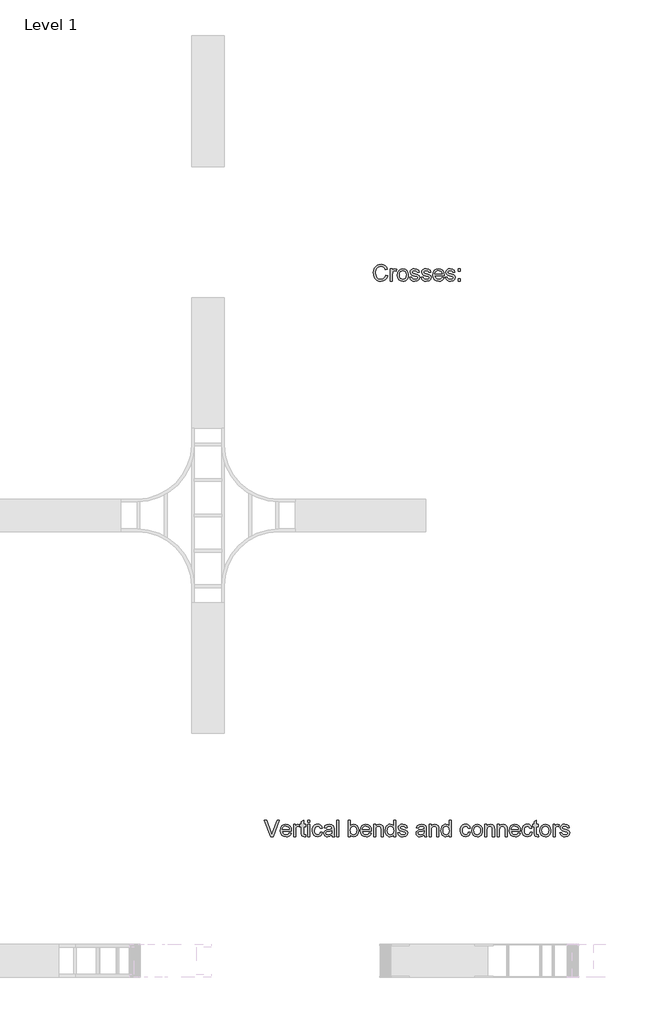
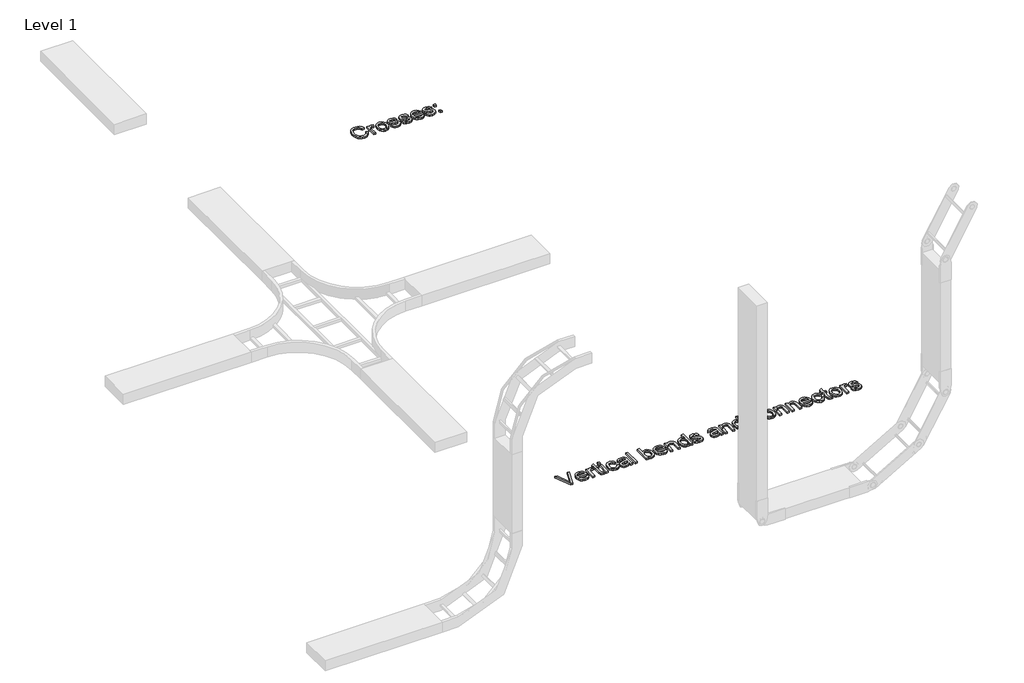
# One storey, part 75 of 106: 2 proxies.
"""IFC4 building model written with IfcOpenShell, lengths in millimetres."""

from ifc_helpers import new_model, si_unit, origin, origin_with_axes, place, context, project, spatial, polyline, outline, extrude, element, save

model = new_model("IFC4")

# Units and contexts
model_context = context("Model", 3, world=origin())
ifc_project = project(units=[si_unit("LENGTHUNIT", "METRE", prefix="MILLI")], contexts=[model_context])

# Site, building, storey
site = spatial("IfcSite", under=ifc_project)
building = spatial("IfcBuilding", under=site)
storey = spatial("IfcBuildingStorey", under=building, Name="Level 1", Elevation=0.0)

# Proxies
placement = place(None, origin())
element("IfcBuildingElementProxy", 1, Name="150mm Arial 2", ObjectType="150mm Arial 2", at=placement, inside=storey, context=model_context, shape_type="SweptSolid", body=[
    extrude(outline(polyline([(107626.8011102, 62501.4112533), (107645.6366684, 62496.5552109), (107636.9454562, 62474.6064514), (107623.3062312, 62458.5713949), (107605.3903781, 62448.7627412), (107583.8692814, 62445.49319), (107562.0216894, 62447.9671964), (107544.6714548, 62455.3892157), (107531.3725206, 62467.5017304), (107521.6788301, 62484.0472231), (107515.7605285, 62503.4989836), (107513.7877613, 62524.3303016), (107516.0180459, 62546.3020537), (107522.7088997, 62565.2755676), (107533.5108347, 62580.6484365), (107548.0743632, 62591.8182536), (107565.3464229, 62598.619472), (107584.2739516, 62600.8865448), (107604.9259271, 62597.9526859), (107622.0002502, 62589.1511091), (107634.963492, 62575.0244405), (107643.2822236, 62556.115306), (107624.4466654, 62551.6271456), (107617.91676, 62565.3629396), (107608.9956216, 62574.7853172), (107597.5728857, 62580.2345693), (107583.5381876, 62582.0509866), (107567.3605768, 62580.0368327), (107554.0708398, 62573.9943709), (107543.9862746, 62564.5581977), (107537.4241795, 62552.3629096), (107532.6233194, 62524.3670898), (107534.0442636, 62506.9662714), (107538.3070963, 62491.9198978), (107545.5727657, 62479.8027846), (107556.0022202, 62471.1897474), (107568.5056095, 62466.043998), (107581.9930832, 62464.3287482), (107597.71544, 62466.6647988), (107610.8166375, 62473.6729508), (107620.7080647, 62485.2796278), (107626.8011102, 62501.4112533)])), origin_with_axes(), (0.0, 0.0, 1.0), 15.0),
    extrude(outline(polyline([(107669.181116, 62447.8476348), (107669.181116, 62558.5065389), (107685.6622294, 62558.5065389), (107685.6622294, 62542.1357901), (107697.3608769, 62557.2189519), (107709.1331007, 62560.8609837), (107728.0422353, 62555.0484482), (107721.7514532, 62538.1626646), (107708.5077013, 62542.0254255), (107697.8575176, 62538.3098174), (107691.0700948, 62528.0091215), (107688.0166742, 62506.0097782), (107688.0166742, 62447.8476348), (107669.181116, 62447.8476348)])), origin_with_axes(), (0.0, 0.0, 1.0), 15.0),
    extrude(outline(polyline([(107735.1055696, 62503.1770869), (107739.1798627, 62529.8577286), (107751.402742, 62548.6105133), (107766.5042979, 62557.7983661), (107784.5856979, 62560.8609837), (107804.3731507, 62557.13158), (107820.178281, 62545.9433688), (107830.5387577, 62528.179267), (107833.9922499, 62504.7221912), (107832.4655396, 62485.693495), (107827.8854088, 62471.2081415), (107820.3852146, 62460.3602211), (107810.0983143, 62452.2438246), (107797.8800335, 62447.1808487), (107784.5856979, 62445.49319), (107764.5591218, 62449.2087982), (107748.7723857, 62460.3556226), (107738.5222736, 62478.492205), (107735.1055696, 62503.1770869)]), holes=[polyline([(107753.9411277, 62503.2138751), (107756.1208286, 62486.1671431), (107762.659931, 62474.0224387), (107772.5007744, 62466.7521708), (107784.5856979, 62464.3287482), (107796.6154392, 62466.7659664), (107806.4378884, 62474.077621), (107812.9769909, 62486.3832738), (107815.1566917, 62503.8024862), (107812.9631953, 62520.3525775), (107806.3827061, 62532.331735), (107796.5464613, 62539.6020029), (107784.5856979, 62542.0254255), (107772.5007744, 62539.6112), (107762.659931, 62532.3685232), (107756.1208286, 62520.25141), (107753.9411277, 62503.2138751)])]), origin_with_axes(), (0.0, 0.0, 1.0), 15.0),
    extrude(outline(polyline([(107848.1189185, 62480.8098615), (107866.9544766, 62483.1643063), (107869.9251238, 62475.1076906), (107875.6732799, 62469.1847905), (107895.6492723, 62464.3287482), (107914.8527124, 62468.7801203), (107921.1067063, 62479.227969), (107919.5340108, 62484.028829), (107914.8159242, 62487.6892549), (107895.4285431, 62493.060332), (107867.0648412, 62502.275776), (107854.6856121, 62513.0363243), (107850.4733633, 62528.2298507), (107853.8578776, 62542.2645488), (107863.0917157, 62552.988309), (107875.0662746, 62558.5617212), (107891.2714765, 62560.8609837), (107914.1905248, 62557.1637696), (107928.7586518, 62547.1573794), (107935.233375, 62530.2532017), (107916.3978168, 62527.8987569), (107909.3160884, 62538.2914233), (107892.7430045, 62542.0254255), (107874.7167867, 62538.4569702), (107869.3089214, 62530.1428371), (107871.5530016, 62524.6613954), (107878.5795477, 62520.5043288), (107894.8031437, 62516.4944151), (107922.4494756, 62507.628459), (107935.2885573, 62497.5852805), (107939.9422645, 62481.2145317), (107934.4792169, 62463.188314), (107918.7154734, 62450.1101091), (107895.3917549, 62445.49319), (107876.3998469, 62447.7188761), (107862.5398927, 62454.3959343), (107853.2876605, 62465.4507882), (107848.1189185, 62480.8098615)])), origin_with_axes(), (0.0, 0.0, 1.0), 15.0),
    extrude(outline(polyline([(107954.0689331, 62480.8098615), (107972.9044913, 62483.1643063), (107975.8751384, 62475.1076906), (107981.6232945, 62469.1847905), (108001.5992869, 62464.3287482), (108020.802727, 62468.7801203), (108027.056721, 62479.227969), (108025.4840254, 62484.028829), (108020.7659388, 62487.6892549), (108001.3785577, 62493.060332), (107973.0148559, 62502.275776), (107960.6356267, 62513.0363243), (107956.4233779, 62528.2298507), (107959.8078922, 62542.2645488), (107969.0417303, 62552.988309), (107981.0162893, 62558.5617212), (107997.2214911, 62560.8609837), (108020.1405394, 62557.1637696), (108034.7086664, 62547.1573794), (108041.1833896, 62530.2532017), (108022.3478314, 62527.8987569), (108015.266103, 62538.2914233), (107998.6930191, 62542.0254255), (107980.6668014, 62538.4569702), (107975.258936, 62530.1428371), (107977.5030162, 62524.6613954), (107984.5295623, 62520.5043288), (108000.7531583, 62516.4944151), (108028.3994902, 62507.628459), (108041.2385719, 62497.5852805), (108045.8922791, 62481.2145317), (108040.4292315, 62463.188314), (108024.665488, 62450.1101091), (108001.3417695, 62445.49319), (107982.3498615, 62447.7188761), (107968.4899073, 62454.3959343), (107959.2376751, 62465.4507882), (107954.0689331, 62480.8098615)])), origin_with_axes(), (0.0, 0.0, 1.0), 15.0),
    extrude(outline(polyline([(108144.5582302, 62480.8098615), (108163.0259064, 62478.4554168), (108156.3718408, 62464.5402803), (108145.7538467, 62454.1384169), (108131.4110474, 62447.6544967), (108113.5825662, 62445.49319), (108091.4820554, 62449.2225937), (108074.4767101, 62460.4108049), (108063.6333883, 62478.3312566), (108060.0189477, 62502.2573819), (108063.6701765, 62526.988249), (108074.6238629, 62545.4835163), (108091.3992819, 62557.0166168), (108112.5157084, 62560.8609837), (108132.9745459, 62557.0258139), (108149.322302, 62545.5203045), (108160.0414637, 62527.0618254), (108163.6145176, 62502.3677465), (108163.504153, 62497.2909749), (108078.8545059, 62497.2909749), (108082.1148601, 62483.1918975), (108089.6886306, 62472.8268223), (108100.6193244, 62466.4532667), (108113.9504482, 62464.3287482), (108132.4181244, 62468.2650855), (108144.5582302, 62480.8098615)]), holes=[polyline([(108078.8545059, 62516.1265331), (108144.7789594, 62516.1265331), (108142.2313766, 62526.0777411), (108137.2373785, 62533.1962577), (108126.2561009, 62539.8181336), (108112.442132, 62542.0254255), (108099.7456047, 62540.2641905), (108089.2471722, 62534.9804853), (108081.9493132, 62526.7445272), (108078.8545059, 62516.1265331)])]), origin_with_axes(), (0.0, 0.0, 1.0), 15.0),
    extrude(outline(polyline([(108175.3867414, 62480.8098615), (108194.2222996, 62483.1643063), (108197.1929467, 62475.1076906), (108202.9411028, 62469.1847905), (108222.9170952, 62464.3287482), (108242.1205353, 62468.7801203), (108248.3745292, 62479.227969), (108246.8018337, 62484.028829), (108242.0837471, 62487.6892549), (108222.696366, 62493.060332), (108194.3326642, 62502.275776), (108181.953435, 62513.0363243), (108177.7411862, 62528.2298507), (108181.1257005, 62542.2645488), (108190.3595386, 62552.988309), (108202.3340976, 62558.5617212), (108218.5392994, 62560.8609837), (108241.4583477, 62557.1637696), (108256.0264747, 62547.1573794), (108262.5011979, 62530.2532017), (108243.6656397, 62527.8987569), (108236.5839113, 62538.2914233), (108220.0108274, 62542.0254255), (108201.9846097, 62538.4569702), (108196.5767443, 62530.1428371), (108198.8208245, 62524.6613954), (108205.8473706, 62520.5043288), (108222.0709666, 62516.4944151), (108249.7172985, 62507.628459), (108262.5563802, 62497.5852805), (108267.2100874, 62481.2145317), (108261.7470398, 62463.188314), (108245.9832963, 62450.1101091), (108222.6595778, 62445.49319), (108203.6676698, 62447.7188761), (108189.8077156, 62454.3959343), (108180.5554834, 62465.4507882), (108175.3867414, 62480.8098615)])), origin_with_axes(), (0.0, 0.0, 1.0), 15.0),
    extrude(outline(polyline([(108293.1089799, 62539.6709808), (108293.1089799, 62558.5065389), (108311.944538, 62558.5065389), (108311.944538, 62539.6709808), (108293.1089799, 62539.6709808)])), origin_with_axes(), (0.0, 0.0, 1.0), 15.0),
    extrude(outline(polyline([(108293.1089799, 62447.8476348), (108293.1089799, 62466.6831929), (108311.944538, 62466.6831929), (108311.944538, 62447.8476348), (108293.1089799, 62447.8476348)])), origin_with_axes(), (0.0, 0.0, 1.0), 15.0),
])
element("IfcBuildingElementProxy", 2, Name="150mm Arial 2", ObjectType="150mm Arial 2", at=placement, inside=storey, context=model_context, shape_type="SweptSolid", body=[
    extrude(outline(polyline([(106572.9295586, 57347.8476348), (106513.0015816, 57498.5321), (106533.1615149, 57498.5321), (106573.2974406, 57389.9701232), (106581.4276327, 57365.5059705), (106589.4474602, 57389.9701232), (106629.6937505, 57498.5321), (106649.8168956, 57498.5321), (106592.353728, 57347.8476348), (106572.9295586, 57347.8476348)])), origin_with_axes(), (0.0, 0.0, 1.0), 15.0),
    extrude(outline(polyline([(106742.4863702, 57380.8098615), (106760.9540463, 57378.4554168), (106754.2999808, 57364.5402803), (106743.6819867, 57354.1384169), (106729.3391874, 57347.6544967), (106711.5107062, 57345.49319), (106689.4101953, 57349.2225937), (106672.4048501, 57360.4108049), (106661.5615283, 57378.3312566), (106657.9470877, 57402.2573819), (106661.5983165, 57426.988249), (106672.5520029, 57445.4835163), (106689.3274219, 57457.0166168), (106710.4438484, 57460.8609837), (106730.9026859, 57457.0258139), (106747.250442, 57445.5203045), (106757.9696037, 57427.0618254), (106761.5426575, 57402.3677465), (106761.4322929, 57397.2909749), (106676.7826459, 57397.2909749), (106680.043, 57383.1918975), (106687.6167706, 57372.8268223), (106698.5474644, 57366.4532667), (106711.8785882, 57364.3287482), (106730.3462644, 57368.2650855), (106742.4863702, 57380.8098615)]), holes=[polyline([(106676.7826459, 57416.1265331), (106742.7070994, 57416.1265331), (106740.1595166, 57426.0777411), (106735.1655185, 57433.1962577), (106724.1842409, 57439.8181336), (106710.370272, 57442.0254255), (106697.6737447, 57440.2641905), (106687.1753122, 57434.9804853), (106679.8774531, 57426.7445272), (106676.7826459, 57416.1265331)])]), origin_with_axes(), (0.0, 0.0, 1.0), 15.0),
    extrude(outline(polyline([(106891.0371198, 57363.556196), (106893.3915646, 57347.2958118), (106879.3016842, 57345.49319), (106863.5195466, 57348.620187), (106855.6468719, 57356.8239555), (106853.3660035, 57378.1978994), (106853.3660035, 57439.6709808), (106839.2393349, 57439.6709808), (106839.2393349, 57455.0484482), (106839.2393349, 57458.5065389), (106853.3660035, 57458.5065389), (106853.3660035, 57485.3987128), (106872.2015617, 57496.4719608), (106872.2015617, 57458.5065389), (106891.0371198, 57458.5065389), (106891.0371198, 57439.6709808), (106872.2015617, 57439.6709808), (106872.2015617, 57378.7497224), (106873.1948431, 57369.0376377), (106876.4138105, 57365.597941), (106882.8333514, 57364.3287482), (106891.0371198, 57363.556196)])), origin_with_axes(), (0.0, 0.0, 1.0), 15.0),
    extrude(outline(polyline([(106780.3782157, 57347.8476348), (106780.3782157, 57458.5065389), (106796.8593291, 57458.5065389), (106796.8593291, 57442.1357901), (106808.5579765, 57457.2189519), (106820.3302004, 57460.8609837), (106839.2393349, 57455.0484482), (106832.9485528, 57438.1626646), (106819.704801, 57442.0254255), (106809.0546172, 57438.3098174), (106802.2671944, 57428.0091215), (106799.2137738, 57406.0097782), (106799.2137738, 57347.8476348), (106780.3782157, 57347.8476348)])), origin_with_axes(), (0.0, 0.0, 1.0), 15.0),
    extrude(outline(polyline([(106909.872678, 57479.6965419), (106909.872678, 57498.5321), (106928.7082362, 57498.5321), (106928.7082362, 57479.6965419), (106909.872678, 57479.6965419)])), origin_with_axes(), (0.0, 0.0, 1.0), 15.0),
    extrude(outline(polyline([(106909.872678, 57347.8476348), (106909.872678, 57458.5065389), (106928.7082362, 57458.5065389), (106928.7082362, 57347.8476348), (106909.872678, 57347.8476348)])), origin_with_axes(), (0.0, 0.0, 1.0), 15.0),
    extrude(outline(polyline([(107027.5949165, 57387.8731959), (107046.4304746, 57385.5187511), (107041.1789591, 57368.7663247), (107031.3105246, 57356.1065856), (107017.7540731, 57348.1465389), (107001.4385066, 57345.49319), (106981.4027334, 57349.1950026), (106965.735559, 57360.3004403), (106955.6234026, 57378.3220596), (106952.2526838, 57402.7724167), (106953.6920221, 57419.5340401), (106958.0100371, 57434.0607803), (106965.2757065, 57445.7916175), (106975.5580082, 57454.1655314), (106987.8590624, 57459.1871206), (107001.1809892, 57460.8609837), (107017.096484, 57458.5617212), (107029.8206025, 57451.6639338), (107038.9486745, 57440.5355035), (107044.0760298, 57425.5443122), (107025.2404717, 57423.1898674), (107016.5032743, 57437.2981419), (107001.328142, 57442.0254255), (106989.1558465, 57439.6985719), (106979.4943456, 57432.7180111), (106973.1897679, 57420.7066639), (106971.088242, 57403.2874515), (106973.1437826, 57385.6337142), (106979.3104046, 57373.5809803), (106988.7971615, 57366.6418062), (107000.8131072, 57364.3287482), (107010.5665786, 57365.772685), (107018.5634135, 57370.1044955), (107024.3805475, 57377.4345442), (107027.5949165, 57387.8731959)])), origin_with_axes(), (0.0, 0.0, 1.0), 15.0),
    extrude(outline(polyline([(107133.5449311, 57361.9743034), (107115.27959, 57349.2087982), (107095.1012626, 57345.49319), (107079.3605117, 57347.7280731), (107067.7492362, 57354.4327225), (107060.5893329, 57364.6138567), (107058.2026985, 57377.2781944), (107061.807942, 57392.1774152), (107071.2809034, 57402.9931459), (107084.4694729, 57409.1735634), (107100.7666453, 57412.0062547), (107133.4345665, 57418.4809779), (107133.5449311, 57422.6748326), (107132.248147, 57431.0809362), (107128.3577949, 57436.580772), (107119.6573857, 57440.6642622), (107107.535674, 57442.0254255), (107088.4793867, 57438.4017879), (107079.3927014, 57425.5443122), (107060.5571432, 57427.8987569), (107068.7057294, 57446.2928567), (107085.1132664, 57457.0717991), (107109.9636952, 57460.8609837), (107132.790773, 57457.5132575), (107145.6850369, 57449.107154), (107151.4607842, 57436.3232546), (107152.3804892, 57419.8421412), (107152.3804892, 57396.4080581), (107153.3369824, 57363.6849547), (107157.0893788, 57347.8476348), (107138.2538206, 57347.8476348), (107133.5449311, 57361.9743034)]), holes=[polyline([(107133.5449311, 57399.6454197), (107103.1578783, 57393.8696724), (107086.9526764, 57390.8162518), (107079.6134306, 57385.8498449), (107077.0382566, 57378.6025696), (107082.648457, 57368.4122383), (107099.1111763, 57364.3287482), (107118.1674637, 57368.8353026), (107130.4547223, 57379.7430038), (107133.4345665, 57394.3111308), (107133.5449311, 57399.6454197)])]), origin_with_axes(), (0.0, 0.0, 1.0), 15.0),
    extrude(outline(polyline([(107178.2793817, 57347.8476348), (107178.2793817, 57498.5321), (107197.1149398, 57498.5321), (107197.1149398, 57347.8476348), (107178.2793817, 57347.8476348)])), origin_with_axes(), (0.0, 0.0, 1.0), 15.0),
    extrude(outline(polyline([(107303.0649544, 57347.8476348), (107284.2293963, 57347.8476348), (107284.2293963, 57498.5321), (107303.0649544, 57498.5321), (107303.0649544, 57442.6508249), (107316.253524, 57456.308444), (107332.6426669, 57460.8609837), (107351.5150132, 57456.7590995), (107366.1567166, 57445.2259989), (107375.1514314, 57427.2917516), (107378.4071871, 57404.8325558), (107375.0364683, 57379.6878215), (107364.9243119, 57360.981022), (107350.084872, 57349.365148), (107332.5323023, 57345.49319), (107315.7844744, 57350.4871881), (107303.0649544, 57365.4691823), (107303.0649544, 57347.8476348)]), holes=[polyline([(107303.0649544, 57403.949639), (107304.3525414, 57388.2410779), (107308.2153024, 57377.6092882), (107318.0837369, 57367.6488832), (107330.9136215, 57364.3287482), (107341.7845344, 57366.7751634), (107351.0735548, 57374.1144092), (107357.4471104, 57386.3005003), (107359.5716289, 57403.2874515), (107357.5344824, 57420.5227229), (107351.4230427, 57432.5708583), (107342.4237294, 57439.6617837), (107331.7229619, 57442.0254255), (107320.8520489, 57439.5790103), (107311.5630285, 57432.2397645), (107305.189473, 57420.2744026), (107303.0649544, 57403.949639)])]), origin_with_axes(), (0.0, 0.0, 1.0), 15.0),
    extrude(outline(polyline([(107477.0731382, 57380.8098615), (107495.5408143, 57378.4554168), (107488.8867487, 57364.5402803), (107478.2687546, 57354.1384169), (107463.9259554, 57347.6544967), (107446.0974742, 57345.49319), (107423.9969633, 57349.2225937), (107406.9916181, 57360.4108049), (107396.1482963, 57378.3312566), (107392.5338557, 57402.2573819), (107396.1850845, 57426.988249), (107407.1387709, 57445.4835163), (107423.9141899, 57457.0166168), (107445.0306164, 57460.8609837), (107465.4894538, 57457.0258139), (107481.83721, 57445.5203045), (107492.5563716, 57427.0618254), (107496.1294255, 57402.3677465), (107496.0190609, 57397.2909749), (107411.3694138, 57397.2909749), (107414.629768, 57383.1918975), (107422.2035386, 57372.8268223), (107433.1342324, 57366.4532667), (107446.4653562, 57364.3287482), (107464.9330323, 57368.2650855), (107477.0731382, 57380.8098615)]), holes=[polyline([(107411.3694138, 57416.1265331), (107477.2938674, 57416.1265331), (107474.7462845, 57426.0777411), (107469.7522865, 57433.1962577), (107458.7710089, 57439.8181336), (107444.95704, 57442.0254255), (107432.2605126, 57440.2641905), (107421.7620802, 57434.9804853), (107414.4642211, 57426.7445272), (107411.3694138, 57416.1265331)])]), origin_with_axes(), (0.0, 0.0, 1.0), 15.0),
    extrude(outline(polyline([(107514.9649837, 57347.8476348), (107514.9649837, 57458.5065389), (107533.8005418, 57458.5065389), (107533.8005418, 57443.0554951), (107548.2031219, 57456.4096116), (107567.8664146, 57460.8609837), (107585.653509, 57457.2741342), (107597.7936149, 57447.8563552), (107603.4406035, 57434.0055981), (107604.4338849, 57415.7954393), (107604.4338849, 57347.8476348), (107585.5983267, 57347.8476348), (107585.5983267, 57413.2570535), (107583.427823, 57429.9221079), (107575.7574834, 57438.7328817), (107562.8264312, 57442.0254255), (107551.7945699, 57440.1768185), (107542.3905864, 57434.6309974), (107535.948053, 57423.9164343), (107533.8005418, 57406.5616012), (107533.8005418, 57347.8476348), (107514.9649837, 57347.8476348)])), origin_with_axes(), (0.0, 0.0, 1.0), 15.0),
    extrude(outline(polyline([(107698.6116757, 57347.8476348), (107698.6116757, 57365.6163351), (107686.1496731, 57350.5239763), (107668.9235986, 57345.49319), (107656.7467046, 57347.3142059), (107645.5998802, 57352.7772535), (107636.163707, 57361.5006553), (107629.1187668, 57373.1027337), (107624.731774, 57387.1144392), (107623.269443, 57403.0667223), (107628.6589143, 57433.0491049), (107635.3911548, 57444.9408904), (107644.8089339, 57453.6872848), (107656.1994801, 57459.067559), (107668.8500222, 57460.8609837), (107686.2140524, 57455.7290299), (107698.6116757, 57442.3933075), (107698.6116757, 57498.5321), (107717.4472338, 57498.5321), (107717.4472338, 57347.8476348), (107698.6116757, 57347.8476348)]), holes=[polyline([(107642.1050012, 57403.1402987), (107644.2295197, 57386.1027638), (107650.6030753, 57373.9856505), (107659.8645045, 57366.7429738), (107670.652644, 57364.3287482), (107681.436185, 57366.6326092), (107690.4630895, 57373.5441921), (107696.5745291, 57385.1922558), (107698.6116757, 57401.7055589), (107696.5377409, 57419.7593678), (107690.3159367, 57432.2765527), (107681.059106, 57439.5882073), (107669.8800918, 57442.0254255), (107658.9815877, 57439.6847764), (107650.0512523, 57432.6628288), (107644.091564, 57420.6008979), (107642.1050012, 57403.1402987)])]), origin_with_axes(), (0.0, 0.0, 1.0), 15.0),
    extrude(outline(polyline([(107738.6372367, 57380.8098615), (107757.4727949, 57383.1643063), (107760.443442, 57375.1076906), (107766.1915982, 57369.1847905), (107786.1675905, 57364.3287482), (107805.3710307, 57368.7801203), (107811.6250246, 57379.227969), (107810.052329, 57384.028829), (107805.3342425, 57387.6892549), (107785.9468613, 57393.060332), (107757.5831595, 57402.275776), (107745.2039303, 57413.0363243), (107740.9916815, 57428.2298507), (107744.3761959, 57442.2645488), (107753.6100339, 57452.988309), (107765.5845929, 57458.5617212), (107781.7897948, 57460.8609837), (107804.7088431, 57457.1637696), (107819.2769701, 57447.1573794), (107825.7516932, 57430.2532017), (107806.916135, 57427.8987569), (107799.8344066, 57438.2914233), (107783.2613227, 57442.0254255), (107765.235105, 57438.4569702), (107759.8272397, 57430.1428371), (107762.0713198, 57424.6613954), (107769.0978659, 57420.5043288), (107785.3214619, 57416.4944151), (107812.9677939, 57407.628459), (107825.8068755, 57397.5852805), (107830.4605827, 57381.2145317), (107824.9975351, 57363.188314), (107809.2337916, 57350.1101091), (107785.9100731, 57345.49319), (107766.9181651, 57347.7188761), (107753.0582109, 57354.3959343), (107743.8059788, 57365.4507882), (107738.6372367, 57380.8098615)])), origin_with_axes(), (0.0, 0.0, 1.0), 15.0),
    extrude(outline(polyline([(107981.145048, 57361.9743034), (107962.8797069, 57349.2087982), (107942.7013795, 57345.49319), (107926.9606286, 57347.7280731), (107915.3493531, 57354.4327225), (107908.1894498, 57364.6138567), (107905.8028153, 57377.2781944), (107909.4080589, 57392.1774152), (107918.8810203, 57402.9931459), (107932.0695898, 57409.1735634), (107948.3667622, 57412.0062547), (107981.0346834, 57418.4809779), (107981.145048, 57422.6748326), (107979.8482639, 57431.0809362), (107975.9579118, 57436.580772), (107967.2575026, 57440.6642622), (107955.1357909, 57442.0254255), (107936.0795035, 57438.4017879), (107926.9928183, 57425.5443122), (107908.1572601, 57427.8987569), (107916.3058463, 57446.2928567), (107932.7133833, 57457.0717991), (107957.5638121, 57460.8609837), (107980.3908899, 57457.5132575), (107993.2851538, 57449.107154), (107999.0609011, 57436.3232546), (107999.9806061, 57419.8421412), (107999.9806061, 57396.4080581), (108000.9370993, 57363.6849547), (108004.6894956, 57347.8476348), (107985.8539375, 57347.8476348), (107981.145048, 57361.9743034)]), holes=[polyline([(107981.145048, 57399.6454197), (107950.7579952, 57393.8696724), (107934.5527933, 57390.8162518), (107927.2135475, 57385.8498449), (107924.6383735, 57378.6025696), (107930.2485739, 57368.4122383), (107946.7112932, 57364.3287482), (107965.7675806, 57368.8353026), (107978.0548392, 57379.7430038), (107981.0346834, 57394.3111308), (107981.145048, 57399.6454197)])]), origin_with_axes(), (0.0, 0.0, 1.0), 15.0),
    extrude(outline(polyline([(108025.8794986, 57347.8476348), (108025.8794986, 57458.5065389), (108044.7150567, 57458.5065389), (108044.7150567, 57443.0554951), (108059.1176368, 57456.4096116), (108078.7809295, 57460.8609837), (108096.5680239, 57457.2741342), (108108.7081298, 57447.8563552), (108114.3551184, 57434.0055981), (108115.3483998, 57415.7954393), (108115.3483998, 57347.8476348), (108096.5128416, 57347.8476348), (108096.5128416, 57413.2570535), (108094.3423379, 57429.9221079), (108086.6719983, 57438.7328817), (108073.7409461, 57442.0254255), (108062.7090848, 57440.1768185), (108053.3051013, 57434.6309974), (108046.8625679, 57423.9164343), (108044.7150567, 57406.5616012), (108044.7150567, 57347.8476348), (108025.8794986, 57347.8476348)])), origin_with_axes(), (0.0, 0.0, 1.0), 15.0),
    extrude(outline(polyline([(108209.5261906, 57347.8476348), (108209.5261906, 57365.6163351), (108197.064188, 57350.5239763), (108179.8381135, 57345.49319), (108167.6612195, 57347.3142059), (108156.5143951, 57352.7772535), (108147.0782219, 57361.5006553), (108140.0332817, 57373.1027337), (108135.6462889, 57387.1144392), (108134.1839579, 57403.0667223), (108139.5734292, 57433.0491049), (108146.3056697, 57444.9408904), (108155.7234488, 57453.6872848), (108167.113995, 57459.067559), (108179.7645371, 57460.8609837), (108197.1285673, 57455.7290299), (108209.5261906, 57442.3933075), (108209.5261906, 57498.5321), (108228.3617487, 57498.5321), (108228.3617487, 57347.8476348), (108209.5261906, 57347.8476348)]), holes=[polyline([(108153.0195161, 57403.1402987), (108155.1440346, 57386.1027638), (108161.5175902, 57373.9856505), (108170.7790194, 57366.7429738), (108181.5671589, 57364.3287482), (108192.3506999, 57366.6326092), (108201.3776044, 57373.5441921), (108207.489044, 57385.1922558), (108209.5261906, 57401.7055589), (108207.4522558, 57419.7593678), (108201.2304516, 57432.2765527), (108191.9736209, 57439.5882073), (108180.7946067, 57442.0254255), (108169.8961026, 57439.6847764), (108160.9657672, 57432.6628288), (108155.0060789, 57420.6008979), (108153.0195161, 57403.1402987)])]), origin_with_axes(), (0.0, 0.0, 1.0), 15.0),
    extrude(outline(polyline([(108386.1095482, 57387.8731959), (108404.9451064, 57385.5187511), (108399.6935909, 57368.7663247), (108389.8251564, 57356.1065856), (108376.2687049, 57348.1465389), (108359.9531384, 57345.49319), (108339.9173652, 57349.1950026), (108324.2501908, 57360.3004403), (108314.1380344, 57378.3220596), (108310.7673156, 57402.7724167), (108312.2066539, 57419.5340401), (108316.5246689, 57434.0607803), (108323.7903383, 57445.7916175), (108334.07264, 57454.1655314), (108346.3736942, 57459.1871206), (108359.695621, 57460.8609837), (108375.6111158, 57458.5617212), (108388.3352343, 57451.6639338), (108397.4633063, 57440.5355035), (108402.5906616, 57425.5443122), (108383.7551035, 57423.1898674), (108375.0179061, 57437.2981419), (108359.8427738, 57442.0254255), (108347.6704783, 57439.6985719), (108338.0089774, 57432.7180111), (108331.7043997, 57420.7066639), (108329.6028738, 57403.2874515), (108331.6584144, 57385.6337142), (108337.8250364, 57373.5809803), (108347.3117933, 57366.6418062), (108359.327739, 57364.3287482), (108369.0812104, 57365.772685), (108377.0780453, 57370.1044955), (108382.8951793, 57377.4345442), (108386.1095482, 57387.8731959)])), origin_with_axes(), (0.0, 0.0, 1.0), 15.0),
    extrude(outline(polyline([(108416.7173302, 57403.1770869), (108420.7916233, 57429.8577286), (108433.0145026, 57448.6105133), (108448.1160585, 57457.7983661), (108466.1974586, 57460.8609837), (108485.9849114, 57457.13158), (108501.7900416, 57445.9433688), (108512.1505183, 57428.179267), (108515.6040105, 57404.7221912), (108514.0773003, 57385.693495), (108509.4971694, 57371.2081415), (108501.9969752, 57360.3602211), (108491.710075, 57352.2438246), (108479.4917942, 57347.1808487), (108466.1974586, 57345.49319), (108446.1708825, 57349.2087982), (108430.3841464, 57360.3556226), (108420.1340343, 57378.492205), (108416.7173302, 57403.1770869)]), holes=[polyline([(108435.5528884, 57403.2138751), (108437.7325892, 57386.1671431), (108444.2716917, 57374.0224387), (108454.1125351, 57366.7521708), (108466.1974586, 57364.3287482), (108478.2271998, 57366.7659664), (108488.0496491, 57374.077621), (108494.5887516, 57386.3832738), (108496.7684524, 57403.8024862), (108494.574956, 57420.3525775), (108487.9944668, 57432.331735), (108478.158222, 57439.6020029), (108466.1974586, 57442.0254255), (108454.1125351, 57439.6112), (108444.2716917, 57432.3685232), (108437.7325892, 57420.25141), (108435.5528884, 57403.2138751)])]), origin_with_axes(), (0.0, 0.0, 1.0), 15.0),
    extrude(outline(polyline([(108536.7940135, 57347.8476348), (108536.7940135, 57458.5065389), (108555.6295716, 57458.5065389), (108555.6295716, 57443.0554951), (108570.0321517, 57456.4096116), (108589.6954444, 57460.8609837), (108607.4825388, 57457.2741342), (108619.6226447, 57447.8563552), (108625.2696333, 57434.0055981), (108626.2629147, 57415.7954393), (108626.2629147, 57347.8476348), (108607.4273565, 57347.8476348), (108607.4273565, 57413.2570535), (108605.2568528, 57429.9221079), (108597.5865132, 57438.7328817), (108584.655461, 57442.0254255), (108573.6235997, 57440.1768185), (108564.2196162, 57434.6309974), (108557.7770828, 57423.9164343), (108555.6295716, 57406.5616012), (108555.6295716, 57347.8476348), (108536.7940135, 57347.8476348)])), origin_with_axes(), (0.0, 0.0, 1.0), 15.0),
    extrude(outline(polyline([(108652.1618072, 57347.8476348), (108652.1618072, 57458.5065389), (108670.9973653, 57458.5065389), (108670.9973653, 57443.0554951), (108685.3999454, 57456.4096116), (108705.0632381, 57460.8609837), (108722.8503325, 57457.2741342), (108734.9904384, 57447.8563552), (108740.637427, 57434.0055981), (108741.6307084, 57415.7954393), (108741.6307084, 57347.8476348), (108722.7951502, 57347.8476348), (108722.7951502, 57413.2570535), (108720.6246465, 57429.9221079), (108712.9543069, 57438.7328817), (108700.0232547, 57442.0254255), (108688.9913934, 57440.1768185), (108679.5874099, 57434.6309974), (108673.1448765, 57423.9164343), (108670.9973653, 57406.5616012), (108670.9973653, 57347.8476348), (108652.1618072, 57347.8476348)])), origin_with_axes(), (0.0, 0.0, 1.0), 15.0),
    extrude(outline(polyline([(108845.005549, 57380.8098615), (108863.4732252, 57378.4554168), (108856.8191596, 57364.5402803), (108846.2011655, 57354.1384169), (108831.8583662, 57347.6544967), (108814.029885, 57345.49319), (108791.9293742, 57349.2225937), (108774.9240289, 57360.4108049), (108764.0807071, 57378.3312566), (108760.4662665, 57402.2573819), (108764.1174953, 57426.988249), (108775.0711817, 57445.4835163), (108791.8466007, 57457.0166168), (108812.9630272, 57460.8609837), (108833.4218647, 57457.0258139), (108849.7696209, 57445.5203045), (108860.4887825, 57427.0618254), (108864.0618364, 57402.3677465), (108863.9514718, 57397.2909749), (108779.3018247, 57397.2909749), (108782.5621789, 57383.1918975), (108790.1359494, 57372.8268223), (108801.0666432, 57366.4532667), (108814.397767, 57364.3287482), (108832.8654432, 57368.2650855), (108845.005549, 57380.8098615)]), holes=[polyline([(108779.3018247, 57416.1265331), (108845.2262782, 57416.1265331), (108842.6786954, 57426.0777411), (108837.6846973, 57433.1962577), (108826.7034198, 57439.8181336), (108812.8894508, 57442.0254255), (108800.1929235, 57440.2641905), (108789.6944911, 57434.9804853), (108782.396632, 57426.7445272), (108779.3018247, 57416.1265331)])]), origin_with_axes(), (0.0, 0.0, 1.0), 15.0),
    extrude(outline(polyline([(108953.5307376, 57387.8731959), (108972.3662958, 57385.5187511), (108967.1147803, 57368.7663247), (108957.2463458, 57356.1065856), (108943.6898942, 57348.1465389), (108927.3743277, 57345.49319), (108907.3385546, 57349.1950026), (108891.6713801, 57360.3004403), (108881.5592238, 57378.3220596), (108878.188505, 57402.7724167), (108879.6278433, 57419.5340401), (108883.9458582, 57434.0607803), (108891.2115276, 57445.7916175), (108901.4938294, 57454.1655314), (108913.7948836, 57459.1871206), (108927.1168103, 57460.8609837), (108943.0323052, 57458.5617212), (108955.7564237, 57451.6639338), (108964.8844957, 57440.5355035), (108970.011851, 57425.5443122), (108951.1762928, 57423.1898674), (108942.4390954, 57437.2981419), (108927.2639631, 57442.0254255), (108915.0916676, 57439.6985719), (108905.4301667, 57432.7180111), (108899.125589, 57420.7066639), (108897.0240631, 57403.2874515), (108899.0796038, 57385.6337142), (108905.2462257, 57373.5809803), (108914.7329827, 57366.6418062), (108926.7489284, 57364.3287482), (108936.5023998, 57365.772685), (108944.4992346, 57370.1044955), (108950.3163687, 57377.4345442), (108953.5307376, 57387.8731959)])), origin_with_axes(), (0.0, 0.0, 1.0), 15.0),
    extrude(outline(polyline([(109028.8729702, 57363.556196), (109031.227415, 57347.2958118), (109017.1375346, 57345.49319), (109001.355397, 57348.620187), (108993.4827223, 57356.8239555), (108991.2018539, 57378.1978994), (108991.2018539, 57439.6709808), (108977.0751853, 57439.6709808), (108977.0751853, 57458.5065389), (108991.2018539, 57458.5065389), (108991.2018539, 57485.3987128), (109010.0374121, 57496.4719608), (109010.0374121, 57458.5065389), (109028.8729702, 57458.5065389), (109028.8729702, 57439.6709808), (109010.0374121, 57439.6709808), (109010.0374121, 57378.7497224), (109011.0306934, 57369.0376377), (109014.2496609, 57365.597941), (109020.6692017, 57364.3287482), (109028.8729702, 57363.556196)])), origin_with_axes(), (0.0, 0.0, 1.0), 15.0),
    extrude(outline(polyline([(109042.9996388, 57403.1770869), (109047.0739319, 57429.8577286), (109059.2968112, 57448.6105133), (109074.3983671, 57457.7983661), (109092.4797672, 57460.8609837), (109112.26722, 57457.13158), (109128.0723502, 57445.9433688), (109138.4328269, 57428.179267), (109141.8863191, 57404.7221912), (109140.3596089, 57385.693495), (109135.779478, 57371.2081415), (109128.2792838, 57360.3602211), (109117.9923835, 57352.2438246), (109105.7741028, 57347.1808487), (109092.4797672, 57345.49319), (109072.4531911, 57349.2087982), (109056.666455, 57360.3556226), (109046.4163429, 57378.492205), (109042.9996388, 57403.1770869)]), holes=[polyline([(109061.835197, 57403.2138751), (109064.0148978, 57386.1671431), (109070.5540003, 57374.0224387), (109080.3948436, 57366.7521708), (109092.4797672, 57364.3287482), (109104.5095084, 57366.7659664), (109114.3319577, 57374.077621), (109120.8710602, 57386.3832738), (109123.050761, 57403.8024862), (109120.8572646, 57420.3525775), (109114.2767754, 57432.331735), (109104.4405305, 57439.6020029), (109092.4797672, 57442.0254255), (109080.3948436, 57439.6112), (109070.5540003, 57432.3685232), (109064.0148978, 57420.25141), (109061.835197, 57403.2138751)])]), origin_with_axes(), (0.0, 0.0, 1.0), 15.0),
    extrude(outline(polyline([(109163.0763221, 57347.8476348), (109163.0763221, 57458.5065389), (109179.5574354, 57458.5065389), (109179.5574354, 57442.1357901), (109191.2560829, 57457.2189519), (109203.0283067, 57460.8609837), (109221.9374413, 57455.0484482), (109215.6466592, 57438.1626646), (109202.4029073, 57442.0254255), (109191.7527236, 57438.3098174), (109184.9653008, 57428.0091215), (109181.9118802, 57406.0097782), (109181.9118802, 57347.8476348), (109163.0763221, 57347.8476348)])), origin_with_axes(), (0.0, 0.0, 1.0), 15.0),
    extrude(outline(polyline([(109226.6463308, 57380.8098615), (109245.481889, 57383.1643063), (109248.4525361, 57375.1076906), (109254.2006923, 57369.1847905), (109274.1766846, 57364.3287482), (109293.3801247, 57368.7801203), (109299.6341187, 57379.227969), (109298.0614231, 57384.028829), (109293.3433365, 57387.6892549), (109273.9559554, 57393.060332), (109245.5922536, 57402.275776), (109233.2130244, 57413.0363243), (109229.0007756, 57428.2298507), (109232.3852899, 57442.2645488), (109241.619128, 57452.988309), (109253.593687, 57458.5617212), (109269.7988889, 57460.8609837), (109292.7179372, 57457.1637696), (109307.2860642, 57447.1573794), (109313.7607873, 57430.2532017), (109294.9252291, 57427.8987569), (109287.8435007, 57438.2914233), (109271.2704168, 57442.0254255), (109253.2441991, 57438.4569702), (109247.8363337, 57430.1428371), (109250.0804139, 57424.6613954), (109257.10696, 57420.5043288), (109273.330556, 57416.4944151), (109300.9768879, 57407.628459), (109313.8159696, 57397.5852805), (109318.4696768, 57381.2145317), (109313.0066292, 57363.188314), (109297.2428857, 57350.1101091), (109273.9191672, 57345.49319), (109254.9272592, 57347.7188761), (109241.067305, 57354.3959343), (109231.8150729, 57365.4507882), (109226.6463308, 57380.8098615)])), origin_with_axes(), (0.0, 0.0, 1.0), 15.0),
])

save(model, "model.ifc")
